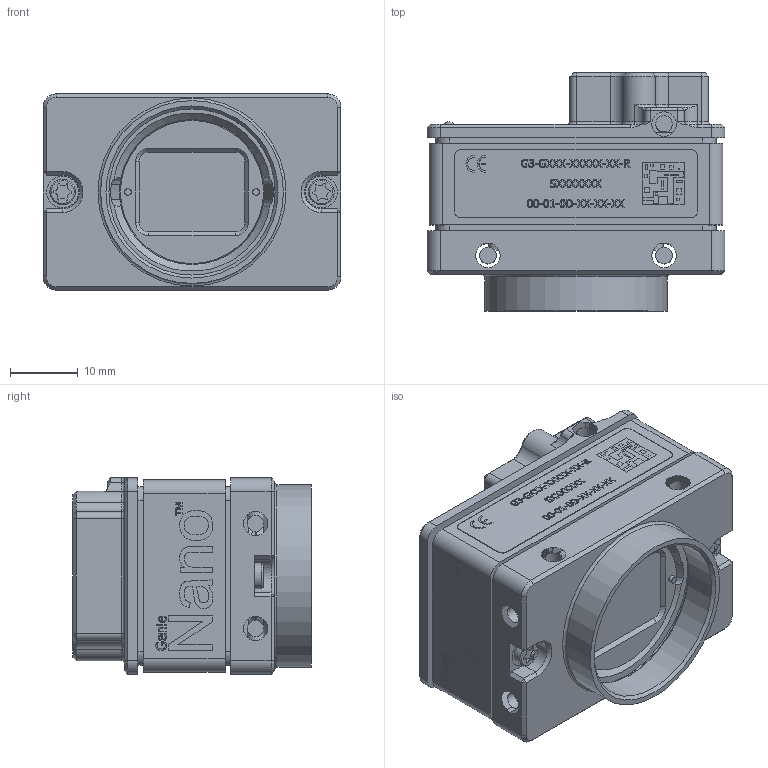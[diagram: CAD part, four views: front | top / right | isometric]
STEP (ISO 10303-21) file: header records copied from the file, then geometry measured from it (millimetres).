
FILE_DESCRIPTION(/* description */ (''),/* implementation_level */ '2;1');
FILE_NAME(/* name */ 'C:\Users\sduhra\Desktop\cad MODELS\NOVA CAMERA ASSEMBLY-SIZE 5 (CS-MOUNT) PY 2.0.stp',/* time_stamp */ '2018-07-10T15:01:40-04:00',/* author */ ('sduhra'),/* organization */ (''),/* preprocessor_version */ 'ST-DEVELOPER v17',/* originating_system */ 'Autodesk Inventor 2018',/* authorisation */ '');
FILE_SCHEMA (('AUTOMOTIVE_DESIGN { 1 0 10303 214 3 1 1 }'));
Products named in the file (1): NOVA CAMERA ASSEMBLY-5.0 ir py
Bounding box: 44 x 35.18 x 29 mm (x, y, z)
Volume: 27010.3 mm3; surface area: 13326 mm2
Topology: 1 solids, 1 shells, 2310 faces, 6265 edges, 4055 vertices
Faces by surface type: plane 1456, cylinder 414, bspline 304, cone 90, torus 38, sphere 8
Full cylindrical faces by diameter (mm): 1.2 x2, 1.567 x4, 1.7 x1, 2.459 x9, 3.8 x2, 4.7 x2, 24.536 x1, 25.654 x1, 27 x1
Entity records: 79734 total; most frequent: CARTESIAN_POINT 20976, ORIENTED_EDGE 12516, DIRECTION 10514, EDGE_CURVE 6258, LINE 4446, VECTOR 4446, VERTEX_POINT 4055, AXIS2_PLACEMENT_3D 3034
